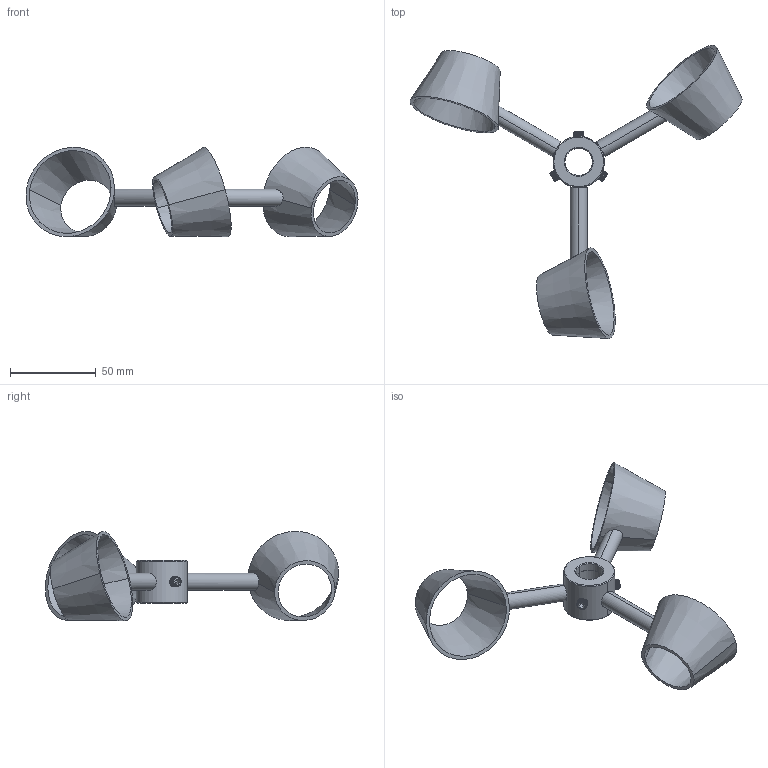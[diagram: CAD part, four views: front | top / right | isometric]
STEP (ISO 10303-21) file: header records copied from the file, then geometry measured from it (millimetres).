
FILE_DESCRIPTION (( 'STEP AP214' ), '1' );
FILE_NAME ('eco-Cup 210x16m.STEP', '2022-09-14T12:23:04', ( '' ), ( '' ), 'SwSTEP 2.0', 'SolidWorks 2022', '' );
FILE_SCHEMA (( 'AUTOMOTIVE_DESIGN' ));
Length unit declared in the file: millimetre
Products named in the file (5): eco-Cup 210x16m; Becher_eco-Cup 210; Scheibenabe_30x16; DIN 913 - M6 x 10-S_DIN 913 - M6 x 10-S; Rührarm_D10_DIN11852
Assembly tree (10 placements, depth 2):
  eco-Cup 210x16m
    Scheibenabe_30x16
    Rührarm_D10_DIN11852  x3
    Becher_eco-Cup 210  x3
    DIN 913 - M6 x 10-S_DIN 913 - M6 x 10-S  x3
Bounding box: 194.14 x 171.49 x 52.23 mm (x, y, z)
Volume: 49466.6 mm3; surface area: 39464.5 mm2
Topology: 10 solids, 10 shells, 271 faces, 670 edges, 420 vertices
Faces by surface type: cone 156, cylinder 74, plane 41
Entity records: 3814 total; most frequent: CARTESIAN_POINT 912, DIRECTION 634, ORIENTED_EDGE 532, EDGE_CURVE 266, AXIS2_PLACEMENT_3D 260, VERTEX_POINT 164, CIRCLE 138, EDGE_LOOP 118
